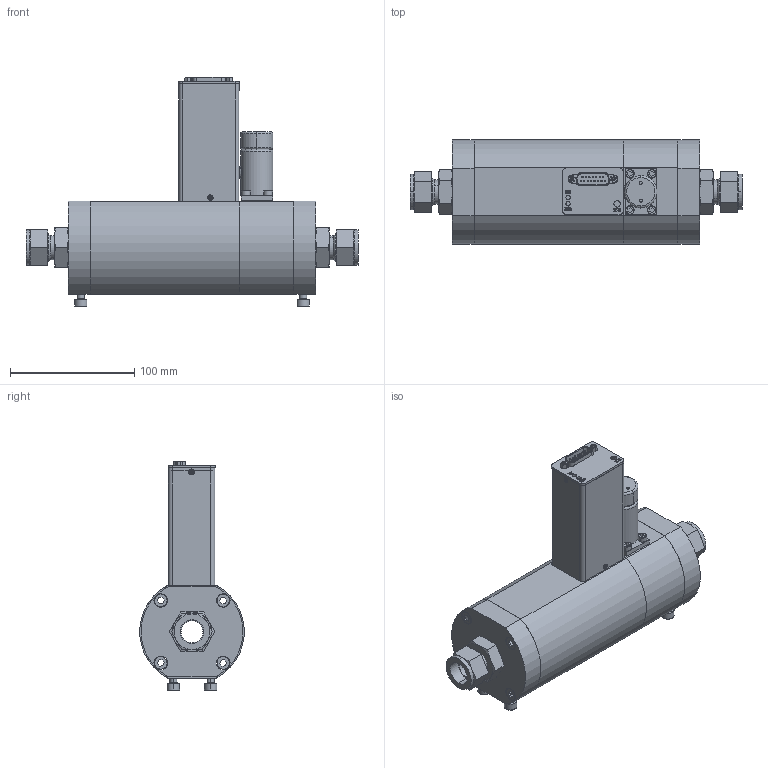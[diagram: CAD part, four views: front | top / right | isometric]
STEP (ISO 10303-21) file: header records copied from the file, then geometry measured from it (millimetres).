
FILE_DESCRIPTION (( 'STEP AP214' ), '1' );
FILE_NAME ('SLA5853S2EAB2C2A1.STEP', '2021-06-23T14:20:10', ( '' ), ( '' ), 'SwSTEP 2.0', 'SolidWorks 2020', '' );
FILE_SCHEMA (( 'AUTOMOTIVE_DESIGN' ));
Length unit declared in the file: inch
Products named in the file (1): SLA5853S2EAB2C2A1
Bounding box: 266.87 x 83.73 x 184.34 mm (x, y, z)
Volume: 112666.5 mm3; surface area: 185953.3 mm2
Topology: 50 solids, 50 shells, 987 faces, 2389 edges, 1530 vertices
Faces by surface type: plane 491, cylinder 292, cone 157, torus 36, bspline 11
Entity records: 42586 total; most frequent: CARTESIAN_POINT 6829, DIRECTION 4847, ORIENTED_EDGE 4754, EDGE_CURVE 2377, AXIS2_PLACEMENT_3D 1784, VERTEX_POINT 1530, LINE 1279, VECTOR 1279
